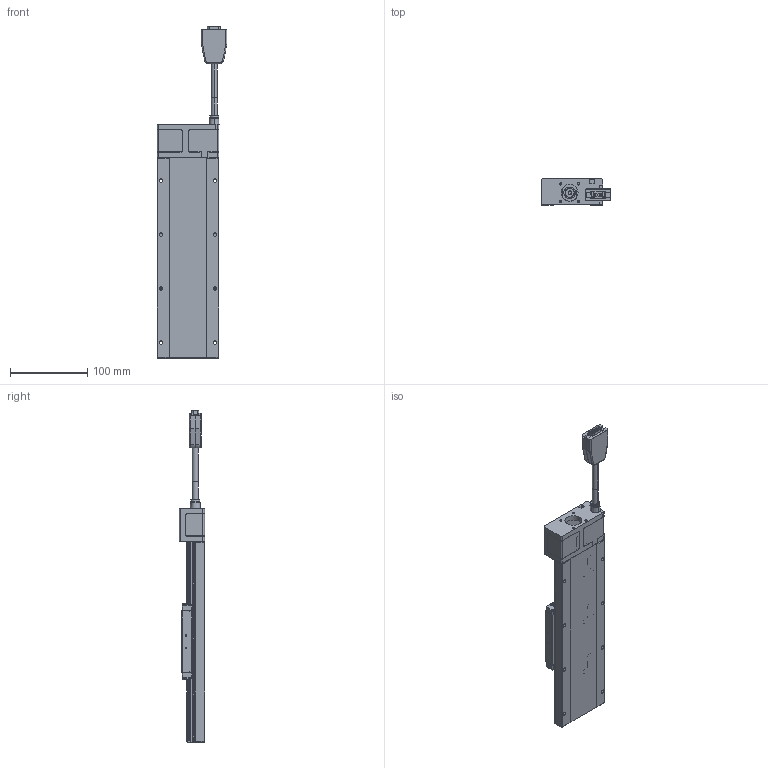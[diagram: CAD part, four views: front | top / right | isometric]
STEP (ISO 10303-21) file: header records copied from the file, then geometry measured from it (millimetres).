
FILE_DESCRIPTION (( 'STEP AP203' ), '1' );
FILE_NAME ('CXN80150-S2?N(µL°¨¹F).S', '2024-01-05T05:15:29', ( '' ), ( '' ), 'SwSTEP 2.0', 'SolidWorks 2019', '' );
FILE_SCHEMA (( 'CONFIG_CONTROL_DESIGN' ));
Length unit declared in the file: millimetre
Products named in the file (4): Group1^CXN80150-S2?N(28框無馬達)_defeature_GMT; Group2^CXN80150-S2?N(28框無馬達)_defeature_GMT; CXN80150-01-10-2^CXN80150-S2?N(28框無馬達)_defeature_GMT; CXN80150-S2?N(無馬達)
Assembly tree (3 placements, depth 2):
  CXN80150-S2?N(無馬達)
    Group1^CXN80150-S2?N(28框無馬達)_defeature_GMT
    Group2^CXN80150-S2?N(28框無馬達)_defeature_GMT
    CXN80150-01-10-2^CXN80150-S2?N(28框無馬達)_defeature_GMT
Bounding box: 90.5 x 33.5 x 430.6 mm (x, y, z)
Volume: 59982.8 mm3; surface area: 144417.5 mm2
Topology: 19 solids, 22 shells, 3629 faces, 9180 edges, 5565 vertices
Faces by surface type: plane 1250, cylinder 1183, cone 470, bspline 280, torus 274, sphere 172
Entity records: 119884 total; most frequent: CARTESIAN_POINT 33017, DIRECTION 18712, ORIENTED_EDGE 17992, EDGE_CURVE 8996, AXIS2_PLACEMENT_3D 7126, VERTEX_POINT 5525, VECTOR 4460, LINE 4460
